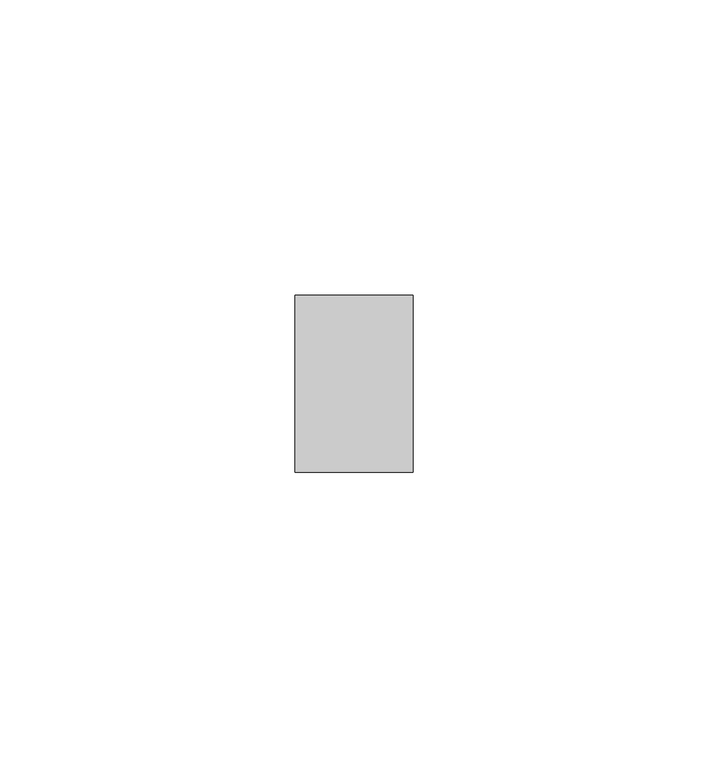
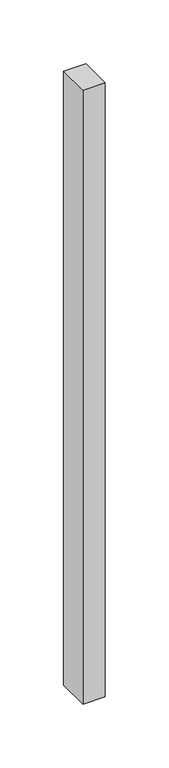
"""IFC4 building model written with IfcOpenShell, lengths in millimetres: member geometry, Прямоугольный импост : Квадрат 10 мм - Зазор между навесными плитами."""

from ifc_helpers import new_model, si_unit, frame, origin, place, context, project, spatial, polyline, outline, extrude, source, transform, mapped, element, save


def member_e9c831b7(model_context):
    return source(origin(), model_context, "Body", "SweptSolid", [
        extrude(outline(polyline([(0.0, 15.0), (0.0, -15.0), (-20.0, -15.0), (-20.0, 15.0), (0.0, 15.0)])), frame((0.0, 0.0, -586.4094589), z_axis=(0.0, 0.0, 1.0), x_axis=(1.0, 0.0, 0.0)), (0.0, 0.0, 1.0), 586.4094589),
    ])


if __name__ == "__main__":
    model = new_model("IFC4")
    model_context = context("Model", 3, world=origin())
    ifc_project = project(units=[si_unit("LENGTHUNIT", "METRE", prefix="MILLI")], contexts=[model_context])
    site = spatial("IfcSite", under=ifc_project)
    building = spatial("IfcBuilding", under=site)
    placement = place(None, origin())
    member_shape = member_e9c831b7(model_context)
    element("IfcMember", 1, ObjectType="Прямоугольный импост : Квадрат 10 мм - Зазор между навесными плитами", at=placement, inside=building, context=model_context, shape_type="MappedRepresentation", body=[
        mapped(member_shape, transform((0.0, 0.0, 0.0), x_axis=(1.0, 0.0, 0.0), y_axis=(0.0, 1.0, 0.0), z_axis=(0.0, 0.0, 1.0))),
    ])
    save(model, "model.ifc")
